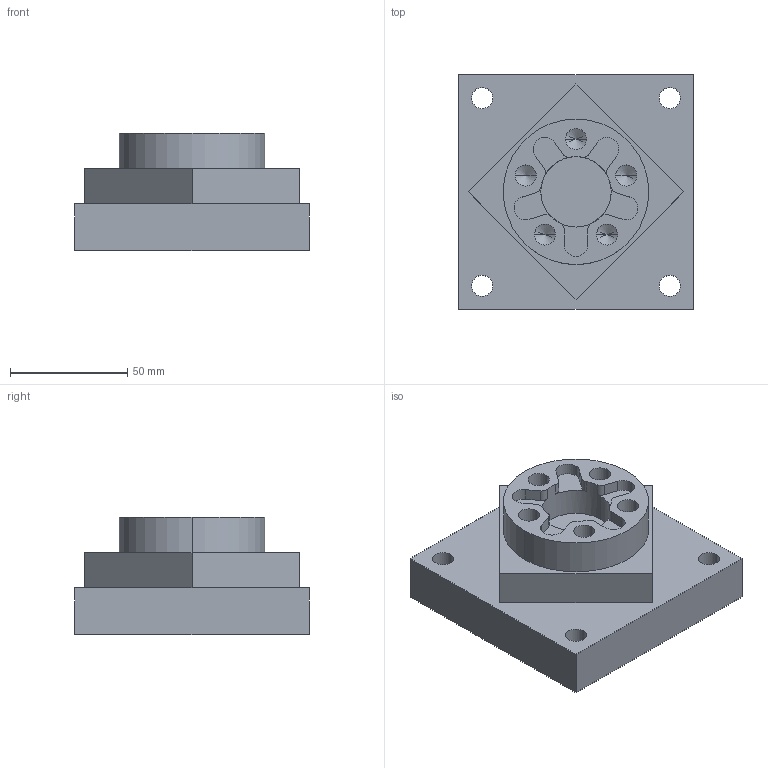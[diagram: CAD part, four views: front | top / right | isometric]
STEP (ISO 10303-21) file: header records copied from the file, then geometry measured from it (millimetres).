
FILE_DESCRIPTION (( 'STEP AP214' ), '1' );
FILE_NAME ('MCAM_MILL_2.STEP', '2014-12-01T18:24:14', ( '' ), ( '' ), 'SwSTEP 2.0', 'SolidWorks 2015', '' );
FILE_SCHEMA (( 'AUTOMOTIVE_DESIGN' ));
Length unit declared in the file: millimetre
Products named in the file (1): MCAM_MILL_2
Bounding box: 100 x 100 x 50 mm (x, y, z)
Volume: 280356.1 mm3; surface area: 42296.8 mm2
Topology: 1 solids, 1 shells, 78 faces, 209 edges, 131 vertices
Faces by surface type: cylinder 40, plane 28, cone 10
Entity records: 2443 total; most frequent: DIRECTION 447, CARTESIAN_POINT 409, ORIENTED_EDGE 398, EDGE_CURVE 199, AXIS2_PLACEMENT_3D 169, VERTEX_POINT 131, LINE 109, VECTOR 109
